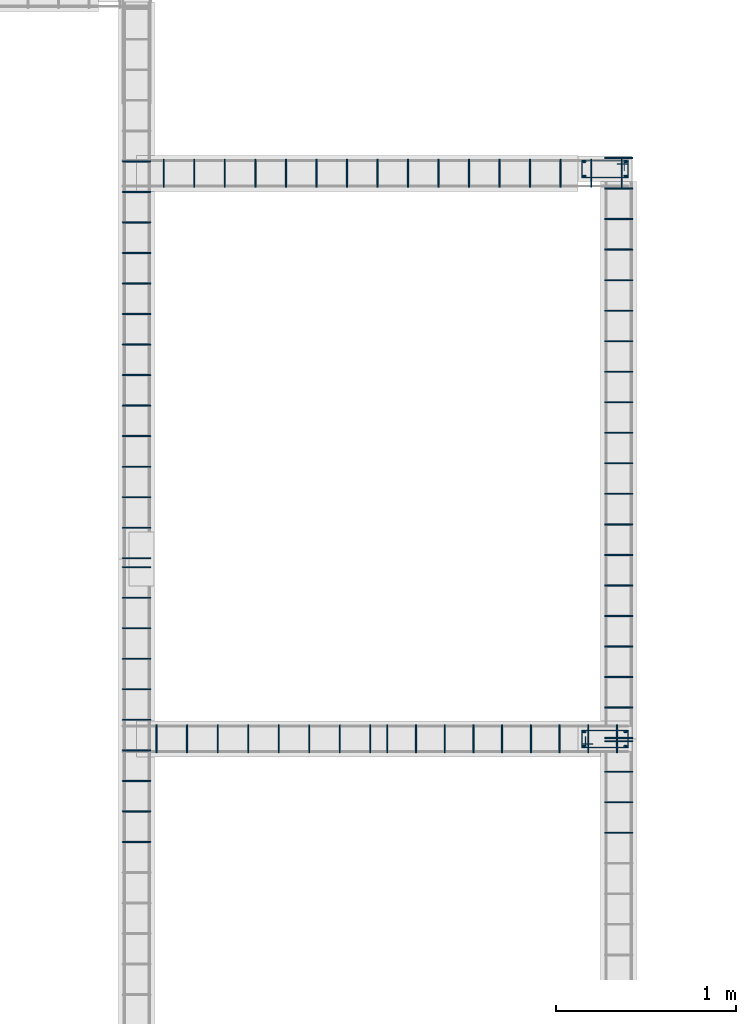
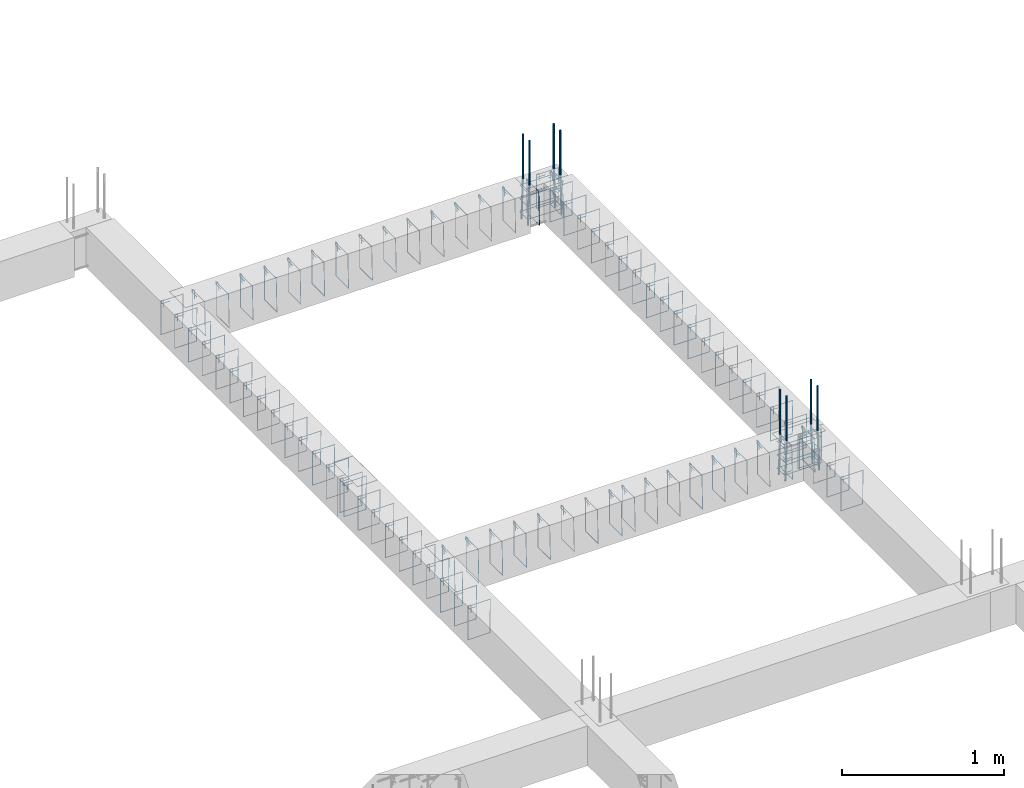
# One storey, part 121 of 150: 95 reinforcing bars.
"""IFC4 building model written with IfcOpenShell, lengths in centimetres."""

from ifc_helpers import new_model, entity, si_unit, derived_unit, frame, origin_with_axes, place, context, project, spatial, source, transform, mapped, element, save


model = new_model("IFC4")

# Units and contexts
model_context = context("Model", 3, precision=1e-05, world=origin_with_axes(), identifier="Body")
ifc_project = project(units=[si_unit("LENGTHUNIT", "METRE", prefix="CENTI"), si_unit("VOLUMEUNIT", "CUBIC_METRE"), si_unit("AREAUNIT", "SQUARE_METRE"), si_unit("POWERUNIT", "WATT"), si_unit("LUMINOUSFLUXUNIT", "LUMEN"), si_unit("ELECTRICCURRENTUNIT", "AMPERE"), si_unit("PRESSUREUNIT", "PASCAL", prefix="KILO"), si_unit("MASSUNIT", "GRAM", prefix="KILO"), si_unit("PLANEANGLEUNIT", "RADIAN"), derived_unit("VOLUMETRICFLOWRATEUNIT", [(si_unit("LENGTHUNIT", "METRE"), 3), (si_unit("TIMEUNIT", "SECOND"), -1)])], contexts=[model_context])

# Site, building, storey
site_placement = place(None, frame((-4000.0, 0.0, 0.0), z_axis=(0.0, 0.0, 1.0), x_axis=(1.0, 0.0, 0.0)))
site = spatial("IfcSite", under=ifc_project, at=site_placement, Name="PADRÃO")
building_placement = place(site_placement, frame((0.0, 0.0, -14.0)))
building = spatial("IfcBuilding", under=site, at=building_placement, Name="CRECHE PRÉ-ESCOLA TIPO 2")
placement = place(building_placement, origin_with_axes())
storey_placement = place(placement, frame((0.0, 0.0, 30.0), z_axis=(0.0, 0.0, 1.0), x_axis=(1.0, 0.0, 0.0)))
storey = spatial("IfcBuildingStorey", under=building, at=storey_placement, Name="VIGA BALDRAME", CompositionType="ELEMENT", Elevation=16.0)

# Reinforcing bars
shared_shape_1 = source(origin_with_axes(), model_context, "Body", "AdvancedSweptSolid", [
    entity("IfcSweptDiskSolid", entity("IfcCompositeCurve", [entity("IfcCompositeCurveSegment", "CONTINUOUS", True, entity("IfcPolyline", [entity("IfcCartesianPoint", [4.25, 21.75, 0.0]), entity("IfcCartesianPoint", [4.25, 27.75, 0.0])])), entity("IfcCompositeCurveSegment", "CONTINUOUS", True, entity("IfcPolyline", [entity("IfcCartesianPoint", [4.25, 27.75, 0.0]), entity("IfcCartesianPoint", [2.25, 27.75, 0.0])])), entity("IfcCompositeCurveSegment", "CONTINUOUS", True, entity("IfcPolyline", [entity("IfcCartesianPoint", [2.25, 27.75, 0.0]), entity("IfcCartesianPoint", [2.25, 2.25, 0.0])])), entity("IfcCompositeCurveSegment", "CONTINUOUS", True, entity("IfcPolyline", [entity("IfcCartesianPoint", [2.25, 2.25, 0.0]), entity("IfcCartesianPoint", [11.75, 2.25, 0.0])])), entity("IfcCompositeCurveSegment", "CONTINUOUS", True, entity("IfcPolyline", [entity("IfcCartesianPoint", [11.75, 2.25, 0.0]), entity("IfcCartesianPoint", [11.75, 27.75, -0.5])])), entity("IfcCompositeCurveSegment", "CONTINUOUS", True, entity("IfcPolyline", [entity("IfcCartesianPoint", [11.75, 27.75, -0.5]), entity("IfcCartesianPoint", [2.25, 27.75, -0.5])])), entity("IfcCompositeCurveSegment", "CONTINUOUS", True, entity("IfcPolyline", [entity("IfcCartesianPoint", [2.25, 27.75, -0.5]), entity("IfcCartesianPoint", [2.25, 25.75, -0.5])])), entity("IfcCompositeCurveSegment", "CONTINUOUS", True, entity("IfcPolyline", [entity("IfcCartesianPoint", [2.25, 25.75, -0.5]), entity("IfcCartesianPoint", [8.25, 25.75, -0.5])]))], False), 0.25),
])
for number, where, z_axis, x_axis, name in (
    (1, (1391.84, 3660.5, -5.0), (0.0, 0.0, 1.0), (0.0, 1.0, 0.0), "P33 - Estribo"),
    (2, (1391.84, 3660.5, -15.0), (0.0, 0.0, 1.0), (0.0, 1.0, 0.0), "P33 - Estribo"),
    (3, (1391.84, 3660.5, -25.0), (0.0, 0.0, 1.0), (0.0, 1.0, 0.0), "P33 - Estribo"),
):
    element("IfcReinforcingBar", number, at=place(storey_placement, frame(where, z_axis=z_axis, x_axis=x_axis)), inside=storey, Name=name, BarLength=0.0, CrossSectionArea=1.9634954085e-05, NominalDiameter=0.5, PredefinedType="MAIN", context=model_context, shape_type="MappedRepresentation", body=[
        mapped(shared_shape_1, transform((0.0, 0.0, 0.0), scale=1.0)),
    ])
shared_shape_2 = source(origin_with_axes(), model_context, "Body", "AdvancedSweptSolid", [
    entity("IfcSweptDiskSolid", entity("IfcCompositeCurve", [entity("IfcCompositeCurveSegment", "CONTINUOUS", True, entity("IfcPolyline", [entity("IfcCartesianPoint", [4.25, 21.75, 0.0]), entity("IfcCartesianPoint", [4.25, 27.75, 0.0])])), entity("IfcCompositeCurveSegment", "CONTINUOUS", True, entity("IfcPolyline", [entity("IfcCartesianPoint", [4.25, 27.75, 0.0]), entity("IfcCartesianPoint", [2.25, 27.75, 0.0])])), entity("IfcCompositeCurveSegment", "CONTINUOUS", True, entity("IfcPolyline", [entity("IfcCartesianPoint", [2.25, 27.75, 0.0]), entity("IfcCartesianPoint", [2.25, 2.25, 0.0])])), entity("IfcCompositeCurveSegment", "CONTINUOUS", True, entity("IfcPolyline", [entity("IfcCartesianPoint", [2.25, 2.25, 0.0]), entity("IfcCartesianPoint", [11.75, 2.25, 0.0])])), entity("IfcCompositeCurveSegment", "CONTINUOUS", True, entity("IfcPolyline", [entity("IfcCartesianPoint", [11.75, 2.25, 0.0]), entity("IfcCartesianPoint", [11.75, 27.75, -0.5])])), entity("IfcCompositeCurveSegment", "CONTINUOUS", True, entity("IfcPolyline", [entity("IfcCartesianPoint", [11.75, 27.75, -0.5]), entity("IfcCartesianPoint", [2.25, 27.75, -0.5])])), entity("IfcCompositeCurveSegment", "CONTINUOUS", True, entity("IfcPolyline", [entity("IfcCartesianPoint", [2.25, 27.75, -0.5]), entity("IfcCartesianPoint", [2.25, 25.75, -0.5])])), entity("IfcCompositeCurveSegment", "CONTINUOUS", True, entity("IfcPolyline", [entity("IfcCartesianPoint", [2.25, 25.75, -0.5]), entity("IfcCartesianPoint", [8.25, 25.75, -0.5])]))], False), 0.25),
])
for number, where, z_axis, x_axis, name in (
    (4, (1361.84, 3992.0, -25.0), (0.0, 0.0, 1.0), (0.0, -1.0, 0.0), "P25 - Estribo"),
    (5, (1361.84, 3992.0, -15.0), (0.0, 0.0, 1.0), (0.0, -1.0, 0.0), "P25 - Estribo"),
    (6, (1361.84, 3992.0, -5.0), (0.0, 0.0, 1.0), (0.0, -1.0, 0.0), "P25 - Estribo"),
):
    element("IfcReinforcingBar", number, at=place(storey_placement, frame(where, z_axis=z_axis, x_axis=x_axis)), inside=storey, Name=name, BarLength=0.0, CrossSectionArea=1.9634954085e-05, NominalDiameter=0.5, PredefinedType="MAIN", context=model_context, shape_type="MappedRepresentation", body=[
        mapped(shared_shape_2, transform((0.0, 0.0, 0.0), scale=1.0)),
    ])
shared_shape_3 = source(origin_with_axes(), model_context, "Body", "AdvancedSweptSolid", [
    entity("IfcSweptDiskSolid", entity("IfcCompositeCurve", [entity("IfcCompositeCurveSegment", "CONTINUOUS", True, entity("IfcPolyline", [entity("IfcCartesianPoint", [2.0, -6.0, 0.0]), entity("IfcCartesianPoint", [2.0, 0.0, 0.0])])), entity("IfcCompositeCurveSegment", "CONTINUOUS", True, entity("IfcPolyline", [entity("IfcCartesianPoint", [2.0, 0.0, 0.0]), entity("IfcCartesianPoint", [0.0, 0.0, 0.0])])), entity("IfcCompositeCurveSegment", "CONTINUOUS", True, entity("IfcPolyline", [entity("IfcCartesianPoint", [0.0, 0.0, 0.0]), entity("IfcCartesianPoint", [0.0, -25.5, 0.0])])), entity("IfcCompositeCurveSegment", "CONTINUOUS", True, entity("IfcPolyline", [entity("IfcCartesianPoint", [0.0, -25.5, 0.0]), entity("IfcCartesianPoint", [15.5, -25.5, 0.0])])), entity("IfcCompositeCurveSegment", "CONTINUOUS", True, entity("IfcPolyline", [entity("IfcCartesianPoint", [15.5, -25.5, 0.0]), entity("IfcCartesianPoint", [15.5, 0.0, 0.5])])), entity("IfcCompositeCurveSegment", "CONTINUOUS", True, entity("IfcPolyline", [entity("IfcCartesianPoint", [15.5, 0.0, 0.5]), entity("IfcCartesianPoint", [0.0, 0.0, 0.5])])), entity("IfcCompositeCurveSegment", "CONTINUOUS", True, entity("IfcPolyline", [entity("IfcCartesianPoint", [0.0, 0.0, 0.5]), entity("IfcCartesianPoint", [0.0, -2.0, 0.5])])), entity("IfcCompositeCurveSegment", "CONTINUOUS", True, entity("IfcPolyline", [entity("IfcCartesianPoint", [0.0, -2.0, 0.5]), entity("IfcCartesianPoint", [6.0, -2.0, 0.5])]))], False), 0.25),
])
for number, where, z_axis, x_axis, name in (
    (7, (1131.42, 3990.25, -2.25), (-1.0, 0.0, 0.0), (0.0, -1.0, 0.0), "V105 - Estribo"),
    (8, (1148.42, 3990.25, -2.25), (-1.0, 0.0, 0.0), (0.0, -1.0, 0.0), "V105 - Estribo"),
    (9, (1267.42, 3990.25, -2.25), (-1.0, 0.0, 0.0), (0.0, -1.0, 0.0), "V105 - Estribo"),
    (10, (1165.42, 3990.25, -2.25), (-1.0, 0.0, 0.0), (0.0, -1.0, 0.0), "V105 - Estribo"),
    (11, (1250.42, 3990.25, -2.25), (-1.0, 0.0, 0.0), (0.0, -1.0, 0.0), "V105 - Estribo"),
    (12, (1233.42, 3990.25, -2.25), (-1.0, 0.0, 0.0), (0.0, -1.0, 0.0), "V105 - Estribo"),
    (13, (1216.42, 3990.25, -2.25), (-1.0, 0.0, 0.0), (0.0, -1.0, 0.0), "V105 - Estribo"),
    (14, (1284.42, 3990.25, -2.25), (-1.0, 0.0, 0.0), (0.0, -1.0, 0.0), "V105 - Estribo"),
    (15, (1335.42, 3990.25, -2.25), (-1.0, 0.0, 0.0), (0.0, -1.0, 0.0), "V105 - Estribo"),
    (16, (1318.42, 3990.25, -2.25), (-1.0, 0.0, 0.0), (0.0, -1.0, 0.0), "V105 - Estribo"),
    (17, (1301.42, 3990.25, -2.25), (-1.0, 0.0, 0.0), (0.0, -1.0, 0.0), "V105 - Estribo"),
    (18, (1369.42, 3990.25, -2.25), (-1.0, 0.0, 0.0), (0.0, -1.0, 0.0), "V105 - Estribo"),
    (19, (1199.42, 3990.25, -2.25), (-1.0, 0.0, 0.0), (0.0, -1.0, 0.0), "V105 - Estribo"),
    (20, (1386.42, 3990.25, -2.25), (-1.0, 0.0, 0.0), (0.0, -1.0, 0.0), "V105 - Estribo"),
    (21, (1182.42, 3990.25, -2.25), (-1.0, 0.0, 0.0), (0.0, -1.0, 0.0), "V105 - Estribo"),
    (22, (1352.42, 3990.25, -2.25), (-1.0, 0.0, 0.0), (0.0, -1.0, 0.0), "V105 - Estribo"),
):
    element("IfcReinforcingBar", number, at=place(storey_placement, frame(where, z_axis=z_axis, x_axis=x_axis)), inside=storey, Name=name, BarLength=0.0, CrossSectionArea=1.9634954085e-05, NominalDiameter=0.5, PredefinedType="MAIN", context=model_context, shape_type="MappedRepresentation", body=[
        mapped(shared_shape_3, transform((0.0, 0.0, 0.0), scale=1.0)),
    ])
shared_shape_4 = source(origin_with_axes(), model_context, "Body", "AdvancedSweptSolid", [
    entity("IfcSweptDiskSolid", entity("IfcCompositeCurve", [entity("IfcCompositeCurveSegment", "CONTINUOUS", True, entity("IfcPolyline", [entity("IfcCartesianPoint", [2.0, -6.0, 0.0]), entity("IfcCartesianPoint", [2.0, 0.0, 0.0])])), entity("IfcCompositeCurveSegment", "CONTINUOUS", True, entity("IfcPolyline", [entity("IfcCartesianPoint", [2.0, 0.0, 0.0]), entity("IfcCartesianPoint", [0.0, 0.0, 0.0])])), entity("IfcCompositeCurveSegment", "CONTINUOUS", True, entity("IfcPolyline", [entity("IfcCartesianPoint", [0.0, 0.0, 0.0]), entity("IfcCartesianPoint", [0.0, -25.5, 0.0])])), entity("IfcCompositeCurveSegment", "CONTINUOUS", True, entity("IfcPolyline", [entity("IfcCartesianPoint", [0.0, -25.5, 0.0]), entity("IfcCartesianPoint", [15.5, -25.5, 0.0])])), entity("IfcCompositeCurveSegment", "CONTINUOUS", True, entity("IfcPolyline", [entity("IfcCartesianPoint", [15.5, -25.5, 0.0]), entity("IfcCartesianPoint", [15.5, 0.0, 0.5])])), entity("IfcCompositeCurveSegment", "CONTINUOUS", True, entity("IfcPolyline", [entity("IfcCartesianPoint", [15.5, 0.0, 0.5]), entity("IfcCartesianPoint", [0.0, 0.0, 0.5])])), entity("IfcCompositeCurveSegment", "CONTINUOUS", True, entity("IfcPolyline", [entity("IfcCartesianPoint", [0.0, 0.0, 0.5]), entity("IfcCartesianPoint", [0.0, -2.0, 0.5])])), entity("IfcCompositeCurveSegment", "CONTINUOUS", True, entity("IfcPolyline", [entity("IfcCartesianPoint", [0.0, -2.0, 0.5]), entity("IfcCartesianPoint", [6.0, -2.0, 0.5])]))], False), 0.25),
])
for number, where, z_axis, x_axis, name in (
    (23, (1376.74, 3615.51, -2.25), (0.0, -1.0, 0.0), (1.0, 0.0, 0.0), "V188 - Estribo"),
    (24, (1376.74, 3649.51, -2.25), (0.0, -1.0, 0.0), (1.0, 0.0, 0.0), "V188 - Estribo"),
    (25, (1376.74, 3666.51, -2.25), (0.0, -1.0, 0.0), (1.0, 0.0, 0.0), "V188 - Estribo"),
    (26, (1376.74, 3632.51, -2.25), (0.0, -1.0, 0.0), (1.0, 0.0, 0.0), "V188 - Estribo"),
):
    element("IfcReinforcingBar", number, at=place(storey_placement, frame(where, z_axis=z_axis, x_axis=x_axis)), inside=storey, Name=name, BarLength=0.0, CrossSectionArea=1.9634954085e-05, NominalDiameter=0.5, PredefinedType="MAIN", context=model_context, shape_type="MappedRepresentation", body=[
        mapped(shared_shape_4, transform((0.0, 0.0, 0.0), scale=1.0)),
    ])
shared_shape_5 = source(origin_with_axes(), model_context, "Body", "AdvancedSweptSolid", [
    entity("IfcSweptDiskSolid", entity("IfcCompositeCurve", [entity("IfcCompositeCurveSegment", "CONTINUOUS", True, entity("IfcPolyline", [entity("IfcCartesianPoint", [2.0, -6.0, 0.0]), entity("IfcCartesianPoint", [2.0, 0.0, 0.0])])), entity("IfcCompositeCurveSegment", "CONTINUOUS", True, entity("IfcPolyline", [entity("IfcCartesianPoint", [2.0, 0.0, 0.0]), entity("IfcCartesianPoint", [0.0, 0.0, 0.0])])), entity("IfcCompositeCurveSegment", "CONTINUOUS", True, entity("IfcPolyline", [entity("IfcCartesianPoint", [0.0, 0.0, 0.0]), entity("IfcCartesianPoint", [0.0, -25.5, 0.0])])), entity("IfcCompositeCurveSegment", "CONTINUOUS", True, entity("IfcPolyline", [entity("IfcCartesianPoint", [0.0, -25.5, 0.0]), entity("IfcCartesianPoint", [15.5, -25.5, 0.0])])), entity("IfcCompositeCurveSegment", "CONTINUOUS", True, entity("IfcPolyline", [entity("IfcCartesianPoint", [15.5, -25.5, 0.0]), entity("IfcCartesianPoint", [15.5, 0.0, 0.5])])), entity("IfcCompositeCurveSegment", "CONTINUOUS", True, entity("IfcPolyline", [entity("IfcCartesianPoint", [15.5, 0.0, 0.5]), entity("IfcCartesianPoint", [0.0, 0.0, 0.5])])), entity("IfcCompositeCurveSegment", "CONTINUOUS", True, entity("IfcPolyline", [entity("IfcCartesianPoint", [0.0, 0.0, 0.5]), entity("IfcCartesianPoint", [0.0, -2.0, 0.5])])), entity("IfcCompositeCurveSegment", "CONTINUOUS", True, entity("IfcPolyline", [entity("IfcCartesianPoint", [0.0, -2.0, 0.5]), entity("IfcCartesianPoint", [6.0, -2.0, 0.5])]))], False), 0.25),
])
for number, where, z_axis, x_axis, name in (
    (27, (1376.74, 3906.25, -2.25), (0.0, -1.0, 0.0), (1.0, 0.0, 0.0), "V188 - Estribo"),
    (28, (1376.74, 3889.25, -2.25), (0.0, -1.0, 0.0), (1.0, 0.0, 0.0), "V188 - Estribo"),
    (29, (1376.74, 3668.25, -2.25), (0.0, -1.0, 0.0), (1.0, 0.0, 0.0), "V188 - Estribo"),
    (30, (1376.74, 3685.25, -2.25), (0.0, -1.0, 0.0), (1.0, 0.0, 0.0), "V188 - Estribo"),
    (31, (1376.74, 3702.25, -2.25), (0.0, -1.0, 0.0), (1.0, 0.0, 0.0), "V188 - Estribo"),
    (32, (1376.74, 3719.25, -2.25), (0.0, -1.0, 0.0), (1.0, 0.0, 0.0), "V188 - Estribo"),
    (33, (1376.74, 3736.25, -2.25), (0.0, -1.0, 0.0), (1.0, 0.0, 0.0), "V188 - Estribo"),
    (34, (1376.74, 3753.25, -2.25), (0.0, -1.0, 0.0), (1.0, 0.0, 0.0), "V188 - Estribo"),
    (35, (1376.74, 3770.25, -2.25), (0.0, -1.0, 0.0), (1.0, 0.0, 0.0), "V188 - Estribo"),
    (36, (1376.74, 3787.25, -2.25), (0.0, -1.0, 0.0), (1.0, 0.0, 0.0), "V188 - Estribo"),
    (37, (1376.74, 3804.25, -2.25), (0.0, -1.0, 0.0), (1.0, 0.0, 0.0), "V188 - Estribo"),
    (38, (1376.74, 3838.25, -2.25), (0.0, -1.0, 0.0), (1.0, 0.0, 0.0), "V188 - Estribo"),
    (39, (1376.74, 3821.25, -2.25), (0.0, -1.0, 0.0), (1.0, 0.0, 0.0), "V188 - Estribo"),
    (40, (1376.74, 3872.25, -2.25), (0.0, -1.0, 0.0), (1.0, 0.0, 0.0), "V188 - Estribo"),
    (41, (1376.74, 3855.25, -2.25), (0.0, -1.0, 0.0), (1.0, 0.0, 0.0), "V188 - Estribo"),
    (42, (1376.74, 3923.25, -2.25), (0.0, -1.0, 0.0), (1.0, 0.0, 0.0), "V188 - Estribo"),
    (43, (1376.74, 3940.25, -2.25), (0.0, -1.0, 0.0), (1.0, 0.0, 0.0), "V188 - Estribo"),
    (44, (1376.74, 3957.25, -2.25), (0.0, -1.0, 0.0), (1.0, 0.0, 0.0), "V188 - Estribo"),
    (45, (1376.74, 3974.25, -2.25), (0.0, -1.0, 0.0), (1.0, 0.0, 0.0), "V188 - Estribo"),
    (46, (1376.74, 3991.25, -2.25), (0.0, -1.0, 0.0), (1.0, 0.0, 0.0), "V188 - Estribo"),
):
    element("IfcReinforcingBar", number, at=place(storey_placement, frame(where, z_axis=z_axis, x_axis=x_axis)), inside=storey, Name=name, BarLength=0.0, CrossSectionArea=1.9634954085e-05, NominalDiameter=0.5, PredefinedType="MAIN", context=model_context, shape_type="MappedRepresentation", body=[
        mapped(shared_shape_5, transform((0.0, 0.0, 0.0), scale=1.0)),
    ])
shared_shape_6 = source(origin_with_axes(), model_context, "Body", "AdvancedSweptSolid", [
    entity("IfcSweptDiskSolid", entity("IfcCompositeCurve", [entity("IfcCompositeCurveSegment", "CONTINUOUS", True, entity("IfcPolyline", [entity("IfcCartesianPoint", [2.0, -6.0, 0.0]), entity("IfcCartesianPoint", [2.0, 0.0, 0.0])])), entity("IfcCompositeCurveSegment", "CONTINUOUS", True, entity("IfcPolyline", [entity("IfcCartesianPoint", [2.0, 0.0, 0.0]), entity("IfcCartesianPoint", [0.0, 0.0, 0.0])])), entity("IfcCompositeCurveSegment", "CONTINUOUS", True, entity("IfcPolyline", [entity("IfcCartesianPoint", [0.0, 0.0, 0.0]), entity("IfcCartesianPoint", [0.0, -25.5, 0.0])])), entity("IfcCompositeCurveSegment", "CONTINUOUS", True, entity("IfcPolyline", [entity("IfcCartesianPoint", [0.0, -25.5, 0.0]), entity("IfcCartesianPoint", [15.5, -25.5, 0.0])])), entity("IfcCompositeCurveSegment", "CONTINUOUS", True, entity("IfcPolyline", [entity("IfcCartesianPoint", [15.5, -25.5, 0.0]), entity("IfcCartesianPoint", [15.5, 0.0, 0.5])])), entity("IfcCompositeCurveSegment", "CONTINUOUS", True, entity("IfcPolyline", [entity("IfcCartesianPoint", [15.5, 0.0, 0.5]), entity("IfcCartesianPoint", [0.0, 0.0, 0.5])])), entity("IfcCompositeCurveSegment", "CONTINUOUS", True, entity("IfcPolyline", [entity("IfcCartesianPoint", [0.0, 0.0, 0.5]), entity("IfcCartesianPoint", [0.0, -2.0, 0.5])])), entity("IfcCompositeCurveSegment", "CONTINUOUS", True, entity("IfcPolyline", [entity("IfcCartesianPoint", [0.0, -2.0, 0.5]), entity("IfcCartesianPoint", [6.0, -2.0, 0.5])]))], False), 0.25),
])
for number, where, z_axis, x_axis, name in (
    (47, (1383.84, 3675.32, -2.25), (-1.0, 0.0, 0.0), (0.0, -1.0, 0.0), "V108 - Estribo"),
    (48, (1367.84, 3675.32, -2.25), (-1.0, 0.0, 0.0), (0.0, -1.0, 0.0), "V108 - Estribo"),
    (49, (1335.84, 3675.32, -2.25), (-1.0, 0.0, 0.0), (0.0, -1.0, 0.0), "V108 - Estribo"),
    (50, (1319.84, 3675.32, -2.25), (-1.0, 0.0, 0.0), (0.0, -1.0, 0.0), "V108 - Estribo"),
    (51, (1303.84, 3675.32, -2.25), (-1.0, 0.0, 0.0), (0.0, -1.0, 0.0), "V108 - Estribo"),
    (52, (1287.84, 3675.32, -2.25), (-1.0, 0.0, 0.0), (0.0, -1.0, 0.0), "V108 - Estribo"),
    (53, (1271.84, 3675.32, -2.25), (-1.0, 0.0, 0.0), (0.0, -1.0, 0.0), "V108 - Estribo"),
    (54, (1255.84, 3675.32, -2.25), (-1.0, 0.0, 0.0), (0.0, -1.0, 0.0), "V108 - Estribo"),
    (55, (1351.84, 3675.32, -2.25), (-1.0, 0.0, 0.0), (0.0, -1.0, 0.0), "V108 - Estribo"),
):
    element("IfcReinforcingBar", number, at=place(storey_placement, frame(where, z_axis=z_axis, x_axis=x_axis)), inside=storey, Name=name, BarLength=0.0, CrossSectionArea=1.9634954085e-05, NominalDiameter=0.5, PredefinedType="MAIN", context=model_context, shape_type="MappedRepresentation", body=[
        mapped(shared_shape_6, transform((0.0, 0.0, 0.0), scale=1.0)),
    ])
shared_shape_7 = source(origin_with_axes(), model_context, "Body", "AdvancedSweptSolid", [
    entity("IfcSweptDiskSolid", entity("IfcCompositeCurve", [entity("IfcCompositeCurveSegment", "CONTINUOUS", True, entity("IfcPolyline", [entity("IfcCartesianPoint", [2.0, -6.0, 0.0]), entity("IfcCartesianPoint", [2.0, 0.0, 0.0])])), entity("IfcCompositeCurveSegment", "CONTINUOUS", True, entity("IfcPolyline", [entity("IfcCartesianPoint", [2.0, 0.0, 0.0]), entity("IfcCartesianPoint", [0.0, 0.0, 0.0])])), entity("IfcCompositeCurveSegment", "CONTINUOUS", True, entity("IfcPolyline", [entity("IfcCartesianPoint", [0.0, 0.0, 0.0]), entity("IfcCartesianPoint", [0.0, -25.5, 0.0])])), entity("IfcCompositeCurveSegment", "CONTINUOUS", True, entity("IfcPolyline", [entity("IfcCartesianPoint", [0.0, -25.5, 0.0]), entity("IfcCartesianPoint", [15.5, -25.5, 0.0])])), entity("IfcCompositeCurveSegment", "CONTINUOUS", True, entity("IfcPolyline", [entity("IfcCartesianPoint", [15.5, -25.5, 0.0]), entity("IfcCartesianPoint", [15.5, 0.0, 0.5])])), entity("IfcCompositeCurveSegment", "CONTINUOUS", True, entity("IfcPolyline", [entity("IfcCartesianPoint", [15.5, 0.0, 0.5]), entity("IfcCartesianPoint", [0.0, 0.0, 0.5])])), entity("IfcCompositeCurveSegment", "CONTINUOUS", True, entity("IfcPolyline", [entity("IfcCartesianPoint", [0.0, 0.0, 0.5]), entity("IfcCartesianPoint", [0.0, -2.0, 0.5])])), entity("IfcCompositeCurveSegment", "CONTINUOUS", True, entity("IfcPolyline", [entity("IfcCartesianPoint", [0.0, -2.0, 0.5]), entity("IfcCartesianPoint", [6.0, -2.0, 0.5])]))], False), 0.25),
])
for number, where, z_axis, x_axis, name in (
    (56, (1161.42, 3675.32, -2.25), (-1.0, 0.0, 0.0), (0.0, -1.0, 0.0), "V108 - Estribo"),
    (57, (1144.42, 3675.32, -2.25), (-1.0, 0.0, 0.0), (0.0, -1.0, 0.0), "V108 - Estribo"),
    (58, (1127.42, 3675.32, -2.25), (-1.0, 0.0, 0.0), (0.0, -1.0, 0.0), "V108 - Estribo"),
    (59, (1246.42, 3675.32, -2.25), (-1.0, 0.0, 0.0), (0.0, -1.0, 0.0), "V108 - Estribo"),
    (60, (1229.42, 3675.32, -2.25), (-1.0, 0.0, 0.0), (0.0, -1.0, 0.0), "V108 - Estribo"),
    (61, (1212.42, 3675.32, -2.25), (-1.0, 0.0, 0.0), (0.0, -1.0, 0.0), "V108 - Estribo"),
    (62, (1195.42, 3675.32, -2.25), (-1.0, 0.0, 0.0), (0.0, -1.0, 0.0), "V108 - Estribo"),
    (63, (1178.42, 3675.32, -2.25), (-1.0, 0.0, 0.0), (0.0, -1.0, 0.0), "V108 - Estribo"),
):
    element("IfcReinforcingBar", number, at=place(storey_placement, frame(where, z_axis=z_axis, x_axis=x_axis)), inside=storey, Name=name, BarLength=0.0, CrossSectionArea=1.9634954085e-05, NominalDiameter=0.5, PredefinedType="MAIN", context=model_context, shape_type="MappedRepresentation", body=[
        mapped(shared_shape_7, transform((0.0, 0.0, 0.0), scale=1.0)),
    ])
shared_shape_8 = source(origin_with_axes(), model_context, "Body", "AdvancedSweptSolid", [
    entity("IfcSweptDiskSolid", entity("IfcCompositeCurve", [entity("IfcCompositeCurveSegment", "CONTINUOUS", True, entity("IfcPolyline", [entity("IfcCartesianPoint", [2.0, -6.0, 0.0]), entity("IfcCartesianPoint", [2.0, 0.0, 0.0])])), entity("IfcCompositeCurveSegment", "CONTINUOUS", True, entity("IfcPolyline", [entity("IfcCartesianPoint", [2.0, 0.0, 0.0]), entity("IfcCartesianPoint", [0.0, 0.0, 0.0])])), entity("IfcCompositeCurveSegment", "CONTINUOUS", True, entity("IfcPolyline", [entity("IfcCartesianPoint", [0.0, 0.0, 0.0]), entity("IfcCartesianPoint", [0.0, -25.5, 0.0])])), entity("IfcCompositeCurveSegment", "CONTINUOUS", True, entity("IfcPolyline", [entity("IfcCartesianPoint", [0.0, -25.5, 0.0]), entity("IfcCartesianPoint", [15.5, -25.5, 0.0])])), entity("IfcCompositeCurveSegment", "CONTINUOUS", True, entity("IfcPolyline", [entity("IfcCartesianPoint", [15.5, -25.5, 0.0]), entity("IfcCartesianPoint", [15.5, 0.0, 0.5])])), entity("IfcCompositeCurveSegment", "CONTINUOUS", True, entity("IfcPolyline", [entity("IfcCartesianPoint", [15.5, 0.0, 0.5]), entity("IfcCartesianPoint", [0.0, 0.0, 0.5])])), entity("IfcCompositeCurveSegment", "CONTINUOUS", True, entity("IfcPolyline", [entity("IfcCartesianPoint", [0.0, 0.0, 0.5]), entity("IfcCartesianPoint", [0.0, -2.0, 0.5])])), entity("IfcCompositeCurveSegment", "CONTINUOUS", True, entity("IfcPolyline", [entity("IfcCartesianPoint", [0.0, -2.0, 0.5]), entity("IfcCartesianPoint", [6.0, -2.0, 0.5])]))], False), 0.25),
])
for number, where, z_axis, x_axis, name in (
    (64, (1108.25, 3678.39, -2.25), (0.0, -1.0, 0.0), (1.0, 0.0, 0.0), "V185 - Estribo"),
    (65, (1108.25, 3661.39, -2.25), (0.0, -1.0, 0.0), (1.0, 0.0, 0.0), "V185 - Estribo"),
    (66, (1108.25, 3644.39, -2.25), (0.0, -1.0, 0.0), (1.0, 0.0, 0.0), "V185 - Estribo"),
    (67, (1108.25, 3627.39, -2.25), (0.0, -1.0, 0.0), (1.0, 0.0, 0.0), "V185 - Estribo"),
    (68, (1108.25, 3712.39, -2.25), (0.0, -1.0, 0.0), (1.0, 0.0, 0.0), "V185 - Estribo"),
    (69, (1108.25, 3729.39, -2.25), (0.0, -1.0, 0.0), (1.0, 0.0, 0.0), "V185 - Estribo"),
    (70, (1108.25, 3746.39, -2.25), (0.0, -1.0, 0.0), (1.0, 0.0, 0.0), "V185 - Estribo"),
    (71, (1108.25, 3763.39, -2.25), (0.0, -1.0, 0.0), (1.0, 0.0, 0.0), "V185 - Estribo"),
    (72, (1108.25, 3695.39, -2.25), (0.0, -1.0, 0.0), (1.0, 0.0, 0.0), "V185 - Estribo"),
    (73, (1108.25, 3610.39, -2.25), (0.0, -1.0, 0.0), (1.0, 0.0, 0.0), "V185 - Estribo"),
):
    element("IfcReinforcingBar", number, at=place(storey_placement, frame(where, z_axis=z_axis, x_axis=x_axis)), inside=storey, Name=name, BarLength=0.0, CrossSectionArea=1.9634954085e-05, NominalDiameter=0.5, PredefinedType="MAIN", context=model_context, shape_type="MappedRepresentation", body=[
        mapped(shared_shape_8, transform((0.0, 0.0, 0.0), scale=1.0)),
    ])
shared_shape_9 = source(origin_with_axes(), model_context, "Body", "AdvancedSweptSolid", [
    entity("IfcSweptDiskSolid", entity("IfcCompositeCurve", [entity("IfcCompositeCurveSegment", "CONTINUOUS", True, entity("IfcPolyline", [entity("IfcCartesianPoint", [2.0, -6.0, 0.0]), entity("IfcCartesianPoint", [2.0, 0.0, 0.0])])), entity("IfcCompositeCurveSegment", "CONTINUOUS", True, entity("IfcPolyline", [entity("IfcCartesianPoint", [2.0, 0.0, 0.0]), entity("IfcCartesianPoint", [0.0, 0.0, 0.0])])), entity("IfcCompositeCurveSegment", "CONTINUOUS", True, entity("IfcPolyline", [entity("IfcCartesianPoint", [0.0, 0.0, 0.0]), entity("IfcCartesianPoint", [0.0, -25.5, 0.0])])), entity("IfcCompositeCurveSegment", "CONTINUOUS", True, entity("IfcPolyline", [entity("IfcCartesianPoint", [0.0, -25.5, 0.0]), entity("IfcCartesianPoint", [15.5, -25.5, 0.0])])), entity("IfcCompositeCurveSegment", "CONTINUOUS", True, entity("IfcPolyline", [entity("IfcCartesianPoint", [15.5, -25.5, 0.0]), entity("IfcCartesianPoint", [15.5, 0.0, 0.5])])), entity("IfcCompositeCurveSegment", "CONTINUOUS", True, entity("IfcPolyline", [entity("IfcCartesianPoint", [15.5, 0.0, 0.5]), entity("IfcCartesianPoint", [0.0, 0.0, 0.5])])), entity("IfcCompositeCurveSegment", "CONTINUOUS", True, entity("IfcPolyline", [entity("IfcCartesianPoint", [0.0, 0.0, 0.5]), entity("IfcCartesianPoint", [0.0, -2.0, 0.5])])), entity("IfcCompositeCurveSegment", "CONTINUOUS", True, entity("IfcPolyline", [entity("IfcCartesianPoint", [0.0, -2.0, 0.5]), entity("IfcCartesianPoint", [6.0, -2.0, 0.5])]))], False), 0.25),
])
for number, where, z_axis, x_axis, name in (
    (74, (1108.25, 3819.39, -2.25), (0.0, -1.0, 0.0), (1.0, 0.0, 0.0), "V185 - Estribo"),
    (75, (1108.25, 3836.39, -2.25), (0.0, -1.0, 0.0), (1.0, 0.0, 0.0), "V185 - Estribo"),
    (76, (1108.25, 3853.39, -2.25), (0.0, -1.0, 0.0), (1.0, 0.0, 0.0), "V185 - Estribo"),
    (77, (1108.25, 3887.39, -2.25), (0.0, -1.0, 0.0), (1.0, 0.0, 0.0), "V185 - Estribo"),
    (78, (1108.25, 3904.39, -2.25), (0.0, -1.0, 0.0), (1.0, 0.0, 0.0), "V185 - Estribo"),
    (79, (1108.25, 3921.39, -2.25), (0.0, -1.0, 0.0), (1.0, 0.0, 0.0), "V185 - Estribo"),
    (80, (1108.25, 3938.39, -2.25), (0.0, -1.0, 0.0), (1.0, 0.0, 0.0), "V185 - Estribo"),
    (81, (1108.25, 3955.39, -2.25), (0.0, -1.0, 0.0), (1.0, 0.0, 0.0), "V185 - Estribo"),
    (82, (1108.25, 3972.39, -2.25), (0.0, -1.0, 0.0), (1.0, 0.0, 0.0), "V185 - Estribo"),
    (83, (1108.25, 3989.39, -2.25), (0.0, -1.0, 0.0), (1.0, 0.0, 0.0), "V185 - Estribo"),
    (84, (1108.25, 3768.39, -2.25), (0.0, -1.0, 0.0), (1.0, 0.0, 0.0), "V185 - Estribo"),
    (85, (1108.25, 3870.39, -2.25), (0.0, -1.0, 0.0), (1.0, 0.0, 0.0), "V185 - Estribo"),
    (86, (1108.25, 3802.39, -2.25), (0.0, -1.0, 0.0), (1.0, 0.0, 0.0), "V185 - Estribo"),
    (87, (1108.25, 3785.39, -2.25), (0.0, -1.0, 0.0), (1.0, 0.0, 0.0), "V185 - Estribo"),
):
    element("IfcReinforcingBar", number, at=place(storey_placement, frame(where, z_axis=z_axis, x_axis=x_axis)), inside=storey, Name=name, BarLength=0.0, CrossSectionArea=1.9634954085e-05, NominalDiameter=0.5, PredefinedType="MAIN", context=model_context, shape_type="MappedRepresentation", body=[
        mapped(shared_shape_9, transform((0.0, 0.0, 0.0), scale=1.0)),
    ])
for number, where, z_axis, x_axis, name in (
    (88, (1388.33986122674, 3989.0, 33.3573001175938), (0.0, 0.0, 1.0), (1.0, 0.0, 0.0), "P25 - Longitudinal"),
    (89, (1388.33986122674, 3981.0, 33.3573001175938), (0.0, 0.0, 1.0), (1.0, 0.0, 0.0), "P25 - Longitudinal"),
):
    element("IfcReinforcingBar", number, at=place(storey_placement, frame(where, z_axis=z_axis, x_axis=x_axis)), inside=storey, Name=name, BarLength=0.0, CrossSectionArea=7.853981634e-05, NominalDiameter=1.0, PredefinedType="MAIN", context=model_context, shape_type="AdvancedSweptSolid", body=[
        entity("IfcSweptDiskSolid", entity("IfcCompositeCurve", [entity("IfcCompositeCurveSegment", "CONTINUOUS", True, entity("IfcPolyline", [entity("IfcCartesianPoint", [0.50013877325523, 0.0, -63.3573001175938]), entity("IfcCartesianPoint", [-0.49986122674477, 0.0, -33.3573001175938])])), entity("IfcCompositeCurveSegment", "CONTINUOUS", True, entity("IfcPolyline", [entity("IfcCartesianPoint", [-0.49986122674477, 0.0, -33.3573001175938]), entity("IfcCartesianPoint", [-0.49986122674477, 0.0, 0.0])]))], False), 0.5),
    ])
for number, where, z_axis, x_axis, name in (
    (90, (1365.34013877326, 3989.0, 33.3573001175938), (0.0, 0.0, 1.0), (1.0, 0.0, 0.0), "P25 - Longitudinal"),
    (91, (1365.34013877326, 3981.0, 33.3573001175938), (0.0, 0.0, 1.0), (1.0, 0.0, 0.0), "P25 - Longitudinal"),
    (92, (1365.34013877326, 3663.5, 33.3573001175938), (0.0, 0.0, 1.0), (1.0, 0.0, 0.0), "P33 - Longitudinal"),
    (93, (1365.34013877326, 3671.5, 33.3573001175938), (0.0, 0.0, 1.0), (1.0, 0.0, 0.0), "P33 - Longitudinal"),
):
    element("IfcReinforcingBar", number, at=place(storey_placement, frame(where, z_axis=z_axis, x_axis=x_axis)), inside=storey, Name=name, BarLength=0.0, CrossSectionArea=7.853981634e-05, NominalDiameter=1.0, PredefinedType="MAIN", context=model_context, shape_type="AdvancedSweptSolid", body=[
        entity("IfcSweptDiskSolid", entity("IfcCompositeCurve", [entity("IfcCompositeCurveSegment", "CONTINUOUS", True, entity("IfcPolyline", [entity("IfcCartesianPoint", [-0.50013877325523, 0.0, -63.3573001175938]), entity("IfcCartesianPoint", [0.49986122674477, 0.0, -33.3573001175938])])), entity("IfcCompositeCurveSegment", "CONTINUOUS", True, entity("IfcPolyline", [entity("IfcCartesianPoint", [0.49986122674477, 0.0, -33.3573001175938]), entity("IfcCartesianPoint", [0.49986122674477, 0.0, 0.0])]))], False), 0.5),
    ])
for number, where, z_axis, x_axis, name in (
    (94, (1388.33986122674, 3671.5, 33.3573001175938), (0.0, 0.0, 1.0), (1.0, 0.0, 0.0), "P33 - Longitudinal"),
    (95, (1388.33986122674, 3663.5, 33.3573001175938), (0.0, 0.0, 1.0), (1.0, 0.0, 0.0), "P33 - Longitudinal"),
):
    element("IfcReinforcingBar", number, at=place(storey_placement, frame(where, z_axis=z_axis, x_axis=x_axis)), inside=storey, Name=name, BarLength=0.0, CrossSectionArea=7.853981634e-05, NominalDiameter=1.0, PredefinedType="MAIN", context=model_context, shape_type="AdvancedSweptSolid", body=[
        entity("IfcSweptDiskSolid", entity("IfcCompositeCurve", [entity("IfcCompositeCurveSegment", "CONTINUOUS", True, entity("IfcPolyline", [entity("IfcCartesianPoint", [0.50013877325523, 0.0, -63.3573001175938]), entity("IfcCartesianPoint", [-0.49986122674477, 0.0, -33.3573001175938])])), entity("IfcCompositeCurveSegment", "CONTINUOUS", True, entity("IfcPolyline", [entity("IfcCartesianPoint", [-0.49986122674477, 0.0, -33.3573001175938]), entity("IfcCartesianPoint", [-0.49986122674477, 0.0, 0.0])]))], False), 0.5),
    ])

save(model, "model.ifc")
